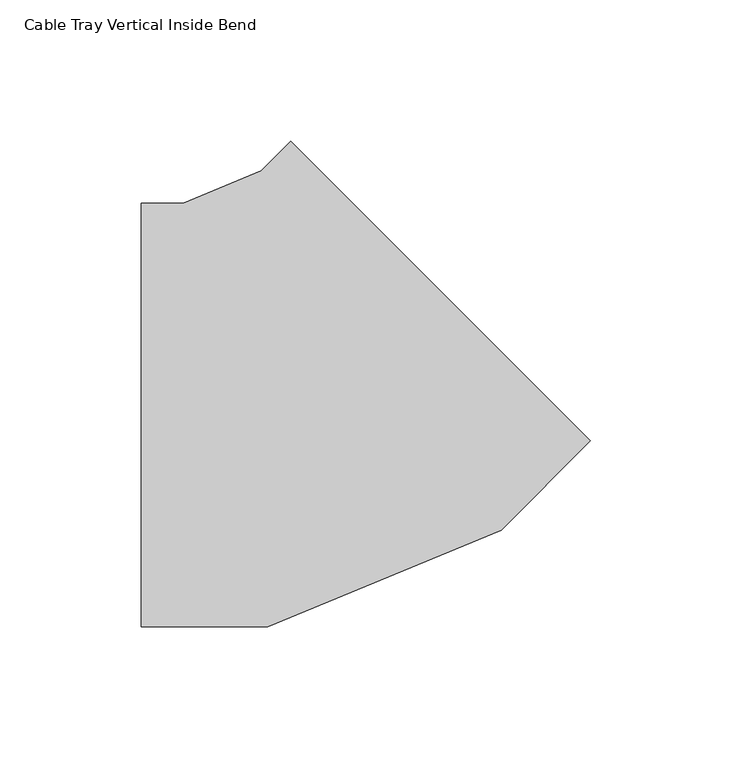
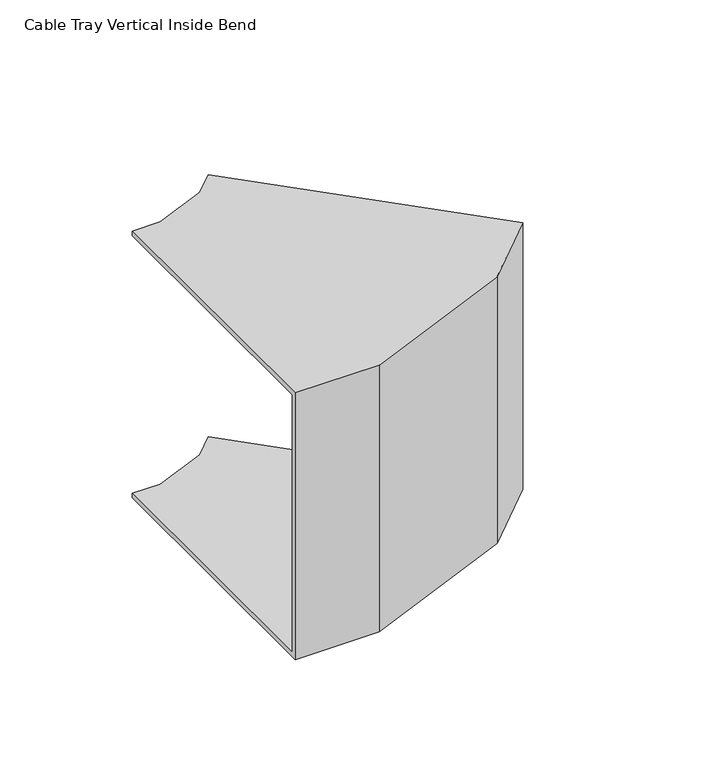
"""IFC4 building model written with IfcOpenShell, lengths in millimetres: cable carrier fitting geometry, Cable Tray Vertical Inside Bend : ELEC_ELV_TKG_N2402."""

from ifc_helpers import new_model, si_unit, origin, place, context, project, spatial, faceted_brep, source, transform, mapped, element, save


def cable_tray_vertical_inside_bend_7e2063ad(model_context):
    return source(origin(), model_context, "Body", "Brep", [
        faceted_brep([(-62.1320344, 75.0, 75.0), (-62.1320344, 75.0, 72.46), (-62.1320344, -72.46, 72.46), (-62.1320344, -72.46, -72.46), (-62.1320344, 75.0, -72.46), (-62.1320344, 75.0, -75.0), (-62.1320344, -75.0, -75.0), (-62.1320344, -75.0, 75.0), (-9.0990258, 96.9669914, 75.0), (96.9669914, -9.0990258, 75.0), (96.9669914, -9.0990258, -75.0), (-9.0990258, 96.9669914, -75.0), (-9.0990258, 96.9669914, -72.46), (95.1709402, -7.3029745, -72.46), (95.1709402, -7.3029745, 72.46), (-9.0990258, 96.9669914, 72.46), (-47.2136068, 75.0, 75.0), (-47.2136068, 75.0, 72.46), (-19.6479471, 86.4180701, 72.46), (63.8814331, -38.5924816, 72.46), (-17.8819891, -72.46, 72.46), (-17.8819891, -72.46, -72.46), (63.8814331, -38.5924816, -72.46), (-19.6479471, 86.4180701, -72.46), (-47.2136068, 75.0, -72.46), (-47.2136068, 75.0, -75.0), (-19.6479471, 86.4180701, -75.0), (65.3202275, -40.7457896, -75.0), (-17.3767517, -75.0, -75.0), (-17.3767517, -75.0, 75.0), (65.3202275, -40.7457896, 75.0), (-19.6479471, 86.4180701, 75.0)], [[[0, 1, 2, 3, 4, 5, 6, 7]], [[8, 9, 10, 11, 12, 13, 14, 15]], [[1, 0, 16, 17]], [[2, 1, 17, 18, 15, 14, 19, 20]], [[3, 2, 20, 21]], [[4, 3, 21, 22, 13, 12, 23, 24]], [[5, 4, 24, 25]], [[6, 5, 25, 26, 11, 10, 27, 28]], [[7, 6, 28, 29]], [[0, 7, 29, 30, 9, 8, 31, 16]], [[17, 16, 31, 18]], [[21, 20, 19, 22]], [[25, 24, 23, 26]], [[29, 28, 27, 30]], [[18, 31, 8, 15]], [[22, 19, 14, 13]], [[26, 23, 12, 11]], [[30, 27, 10, 9]]]),
    ])


if __name__ == "__main__":
    model = new_model("IFC4")
    model_context = context("Model", 3, world=origin())
    ifc_project = project(units=[si_unit("LENGTHUNIT", "METRE", prefix="MILLI")], contexts=[model_context])
    site = spatial("IfcSite", under=ifc_project)
    building = spatial("IfcBuilding", under=site)
    placement = place(None, origin())
    cable_tray_vertical_inside_bend_shape = cable_tray_vertical_inside_bend_7e2063ad(model_context)
    element("IfcCableCarrierFitting", 1, ObjectType="Cable Tray Vertical Inside Bend : ELEC_ELV_TKG_N2402", at=placement, inside=building, context=model_context, shape_type="MappedRepresentation", body=[
        mapped(cable_tray_vertical_inside_bend_shape, transform((0.0, 0.0, 0.0), x_axis=(1.0, 0.0, 0.0), y_axis=(0.0, 1.0, 0.0), z_axis=(0.0, 0.0, 1.0))),
    ])
    save(model, "model.ifc")
